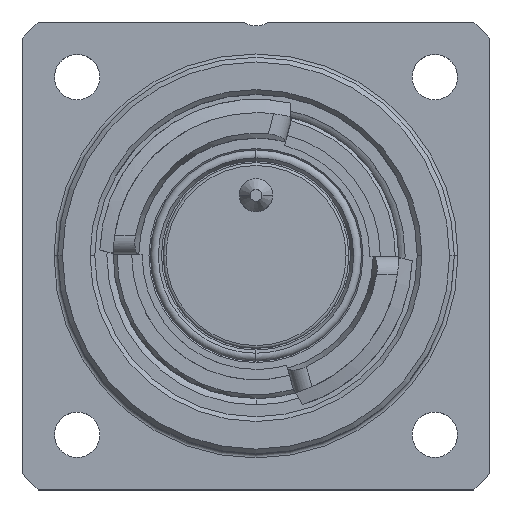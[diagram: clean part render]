
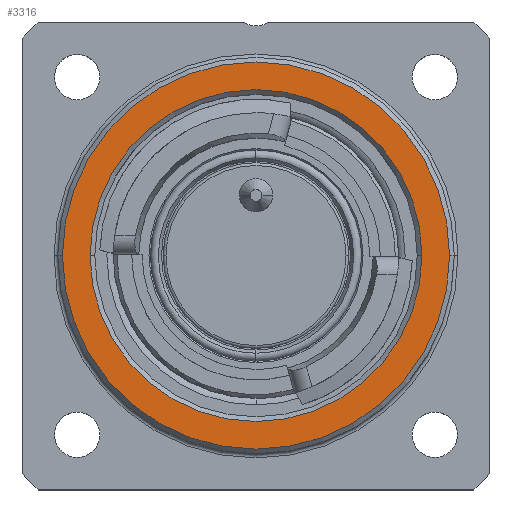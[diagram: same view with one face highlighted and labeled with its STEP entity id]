
A CAD part, top view. The second image highlights one B-rep face of the part: STEP entity #3316.
In plain terms, the highlighted planar face has unit normal (0, 0, 1).
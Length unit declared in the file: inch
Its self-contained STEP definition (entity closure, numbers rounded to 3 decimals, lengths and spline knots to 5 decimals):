
#30 = CARTESIAN_POINT ( 'NONE',  ( 0., 0., -0.19291 ) ) ;
#587 = FACE_BOUND ( 'NONE', #6002, .T. ) ;
#728 = CARTESIAN_POINT ( 'NONE',  ( -0.41126, 0., -0.19291 ) ) ;
#991 = CARTESIAN_POINT ( 'NONE',  ( 0., 0., -0.19291 ) ) ;
#1211 = CARTESIAN_POINT ( 'NONE',  ( 0., 0.42126, -0.19291 ) ) ;
#1342 = DIRECTION ( 'NONE',  ( -1., 0., 0. ) ) ;
#1555 = EDGE_CURVE ( 'NONE', #6578, #7868, #2665, .T. ) ;
#1596 = DIRECTION ( 'NONE',  ( -1., 0., 0. ) ) ;
#1792 = CARTESIAN_POINT ( 'NONE',  ( 0.41126, 0., -0.19291 ) ) ;
#2286 = CARTESIAN_POINT ( 'NONE',  ( 0., 0., -0.19291 ) ) ;
#2322 = EDGE_CURVE ( 'NONE', #7868, #6578, #3340, .T. ) ;
#2655 = DIRECTION ( 'NONE',  ( 0., 0., -1. ) ) ;
#2665 = CIRCLE ( 'NONE', #4536, 0.41126 ) ;
#3106 = CIRCLE ( 'NONE', #8754, 0.35252 ) ;
#3316 = ADVANCED_FACE ( 'NONE', ( #587, #4732 ), #7515, .F. ) ;
#3340 = CIRCLE ( 'NONE', #6089, 0.41126 ) ;
#3529 = DIRECTION ( 'NONE',  ( 0., 0., 1. ) ) ;
#3733 = EDGE_CURVE ( 'NONE', #4626, #5823, #4497, .T. ) ;
#3737 = DIRECTION ( 'NONE',  ( 0., 0., 1. ) ) ;
#3915 = ORIENTED_EDGE ( 'NONE', *, *, #3733, .T. ) ;
#4068 = DIRECTION ( 'NONE',  ( -1., 0., 0. ) ) ;
#4497 = CIRCLE ( 'NONE', #6965, 0.35252 ) ;
#4536 = AXIS2_PLACEMENT_3D ( 'NONE', #7759, #3529, #6424 ) ;
#4626 = VERTEX_POINT ( 'NONE', #7443 ) ;
#4732 = FACE_OUTER_BOUND ( 'NONE', #8812, .T. ) ;
#5459 = ORIENTED_EDGE ( 'NONE', *, *, #6230, .T. ) ;
#5823 = VERTEX_POINT ( 'NONE', #7030 ) ;
#6002 = EDGE_LOOP ( 'NONE', ( #3915, #5459 ) ) ;
#6089 = AXIS2_PLACEMENT_3D ( 'NONE', #991, #3737, #6499 ) ;
#6230 = EDGE_CURVE ( 'NONE', #5823, #4626, #3106, .T. ) ;
#6424 = DIRECTION ( 'NONE',  ( -1., 0., 0. ) ) ;
#6499 = DIRECTION ( 'NONE',  ( -1., 0., 0. ) ) ;
#6578 = VERTEX_POINT ( 'NONE', #1792 ) ;
#6965 = AXIS2_PLACEMENT_3D ( 'NONE', #2286, #7824, #1596 ) ;
#7030 = CARTESIAN_POINT ( 'NONE',  ( -0.35252, 0., -0.19291 ) ) ;
#7323 = ORIENTED_EDGE ( 'NONE', *, *, #1555, .T. ) ;
#7443 = CARTESIAN_POINT ( 'NONE',  ( 0.35252, 0., -0.19291 ) ) ;
#7515 = PLANE ( 'NONE',  #8124 ) ;
#7558 = DIRECTION ( 'NONE',  ( 0., 0., -1. ) ) ;
#7759 = CARTESIAN_POINT ( 'NONE',  ( 0., 0., -0.19291 ) ) ;
#7824 = DIRECTION ( 'NONE',  ( 0., 0., -1. ) ) ;
#7868 = VERTEX_POINT ( 'NONE', #728 ) ;
#7877 = ORIENTED_EDGE ( 'NONE', *, *, #2322, .T. ) ;
#8124 = AXIS2_PLACEMENT_3D ( 'NONE', #1211, #7558, #1342 ) ;
#8754 = AXIS2_PLACEMENT_3D ( 'NONE', #30, #2655, #4068 ) ;
#8812 = EDGE_LOOP ( 'NONE', ( #7877, #7323 ) ) ;
